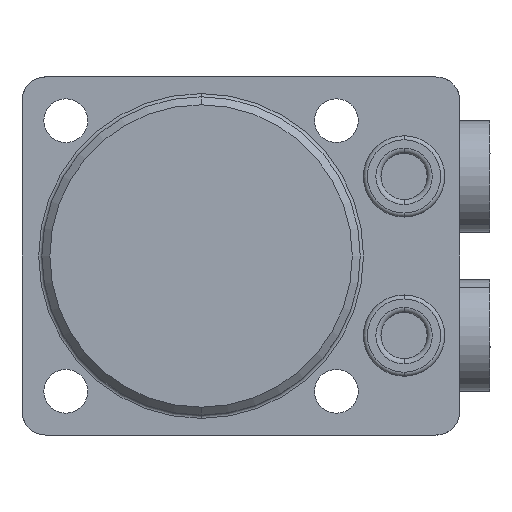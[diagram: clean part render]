
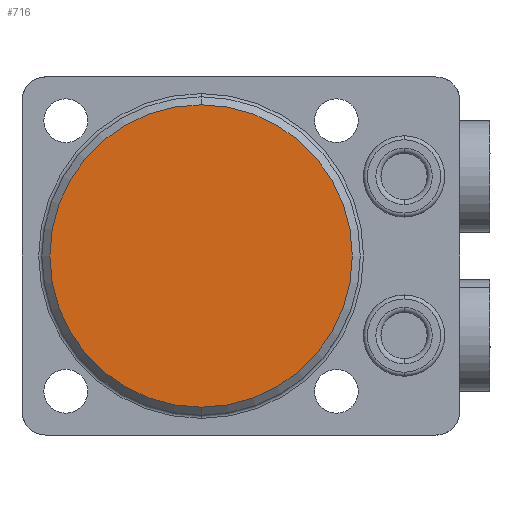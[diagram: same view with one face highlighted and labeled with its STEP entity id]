
A CAD part, front view. The second image highlights one B-rep face of the part: STEP entity #716.
In plain terms, the highlighted planar face has unit normal (0, -1, 0).
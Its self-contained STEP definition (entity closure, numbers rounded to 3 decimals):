
#359=PLANE('',#4165);
#716=ADVANCED_FACE('',(#962),#359,.F.);
#962=FACE_OUTER_BOUND('',#1210,.T.);
#1210=EDGE_LOOP('',(#2407,#2408));
#2407=ORIENTED_EDGE('',*,*,#3412,.T.);
#2408=ORIENTED_EDGE('',*,*,#3353,.T.);
#2909=VERTEX_POINT('',#6801);
#2910=VERTEX_POINT('',#6802);
#3353=EDGE_CURVE('',#2909,#2910,#3683,.T.);
#3412=EDGE_CURVE('',#2910,#2909,#3704,.T.);
#3683=CIRCLE('',#4132,19.);
#3704=CIRCLE('',#4164,19.);
#4132=AXIS2_PLACEMENT_3D('',#6800,#5189,#5190);
#4164=AXIS2_PLACEMENT_3D('',#7032,#5271,#5272);
#4165=AXIS2_PLACEMENT_3D('',#7033,#5273,#5274);
#5189=DIRECTION('',(0.,-1.,0.));
#5190=DIRECTION('',(0.,0.,1.));
#5271=DIRECTION('',(0.,-1.,0.));
#5272=DIRECTION('',(0.,0.,1.));
#5273=DIRECTION('',(0.,1.,0.));
#5274=DIRECTION('',(0.,0.,1.));
#6800=CARTESIAN_POINT('',(0.,-30.,0.));
#6801=CARTESIAN_POINT('',(0.,-30.,-19.));
#6802=CARTESIAN_POINT('',(0.,-30.,19.));
#7032=CARTESIAN_POINT('',(0.,-30.,0.));
#7033=CARTESIAN_POINT('',(0.,-30.,0.));
